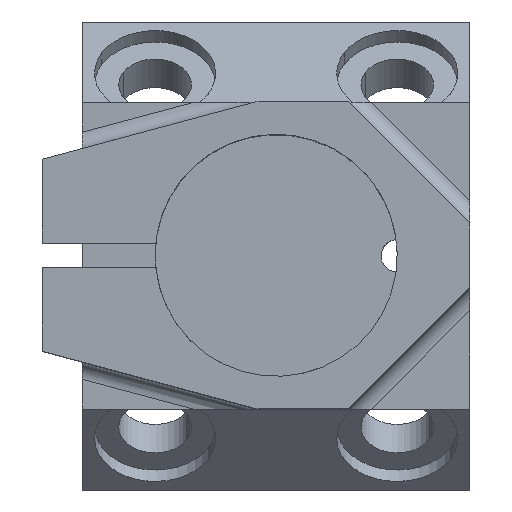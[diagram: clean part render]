
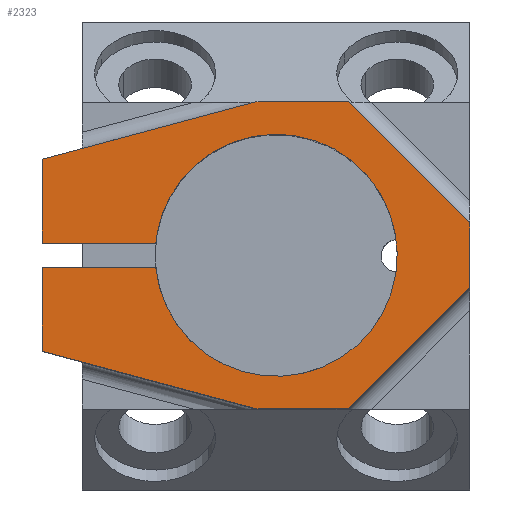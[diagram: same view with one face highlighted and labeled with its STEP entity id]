
A CAD part, top view. The second image highlights one B-rep face of the part: STEP entity #2323.
In plain terms, the highlighted planar face has unit normal (0, 0, 1).
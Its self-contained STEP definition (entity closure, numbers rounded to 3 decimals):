
#571=CARTESIAN_POINT('Vertex',(-6.,-19.,70.)) ;
#574=CARTESIAN_POINT('Line Origine',(-11.751,-19.,70.)) ;
#578=CARTESIAN_POINT('Vertex',(-17.501,-19.,70.)) ;
#928=CARTESIAN_POINT('Line Origine',(-30.751,-15.45,70.)) ;
#932=CARTESIAN_POINT('Vertex',(-44.,-11.9,70.)) ;
#1173=CARTESIAN_POINT('Vertex',(-44.,-1.5,70.)) ;
#1176=CARTESIAN_POINT('Line Origine',(-44.,-6.7,70.)) ;
#1193=CARTESIAN_POINT('Line Origine',(-36.962,-1.5,70.)) ;
#1197=CARTESIAN_POINT('Vertex',(-29.925,-1.5,70.)) ;
#1426=CARTESIAN_POINT('Vertex',(-44.,11.9,70.)) ;
#1429=CARTESIAN_POINT('Line Origine',(-30.751,15.45,70.)) ;
#1433=CARTESIAN_POINT('Vertex',(-17.501,19.,70.)) ;
#1543=CARTESIAN_POINT('Vertex',(-29.925,1.5,70.)) ;
#1546=CARTESIAN_POINT('Line Origine',(-36.962,1.5,70.)) ;
#1550=CARTESIAN_POINT('Vertex',(-44.,1.5,70.)) ;
#1583=CARTESIAN_POINT('Line Origine',(-44.,6.7,70.)) ;
#1983=CARTESIAN_POINT('Vertex',(-6.,19.,70.)) ;
#1986=CARTESIAN_POINT('Line Origine',(1.5,11.5,70.)) ;
#1990=CARTESIAN_POINT('Vertex',(9.,4.,70.)) ;
#2113=CARTESIAN_POINT('Vertex',(-28.164,7.191,70.)) ;
#2116=CARTESIAN_POINT('Axis2P3D Location',(-15.,0.,70.)) ;
#2273=CARTESIAN_POINT('Axis2P3D Location',(0.,19.,70.)) ;
#2278=CARTESIAN_POINT('Line Origine',(1.5,-11.5,70.)) ;
#2282=CARTESIAN_POINT('Vertex',(9.,-4.,70.)) ;
#2285=CARTESIAN_POINT('Line Origine',(9.,0.,70.)) ;
#2290=CARTESIAN_POINT('Line Origine',(-11.751,19.,70.)) ;
#2295=CARTESIAN_POINT('Axis2P3D Location',(-15.,0.,70.)) ;
#2299=CARTESIAN_POINT('Vertex',(-1.836,-7.191,70.)) ;
#2302=CARTESIAN_POINT('Axis2P3D Location',(-15.,0.,70.)) ;
#575=DIRECTION('Vector Direction',(1.,0.,0.)) ;
#929=DIRECTION('Vector Direction',(-0.966,0.259,0.)) ;
#1177=DIRECTION('Vector Direction',(0.,-1.,0.)) ;
#1194=DIRECTION('Vector Direction',(-1.,0.,0.)) ;
#1430=DIRECTION('Vector Direction',(-0.966,-0.259,0.)) ;
#1547=DIRECTION('Vector Direction',(1.,0.,0.)) ;
#1584=DIRECTION('Vector Direction',(0.,-1.,0.)) ;
#1987=DIRECTION('Vector Direction',(0.707,-0.707,0.)) ;
#2117=DIRECTION('Axis2P3D Direction',(0.,-0.,-1.)) ;
#2274=DIRECTION('Axis2P3D Direction',(-0.,0.,1.)) ;
#2275=DIRECTION('Axis2P3D XDirection',(0.,-1.,0.)) ;
#2279=DIRECTION('Vector Direction',(-0.707,-0.707,0.)) ;
#2286=DIRECTION('Vector Direction',(0.,-1.,0.)) ;
#2291=DIRECTION('Vector Direction',(1.,0.,0.)) ;
#2296=DIRECTION('Axis2P3D Direction',(-0.,0.,1.)) ;
#2303=DIRECTION('Axis2P3D Direction',(-0.,0.,1.)) ;
#2118=AXIS2_PLACEMENT_3D('Circle Axis2P3D',#2116,#2117,$) ;
#2276=AXIS2_PLACEMENT_3D('Plane Axis2P3D',#2273,#2274,#2275) ;
#2297=AXIS2_PLACEMENT_3D('Circle Axis2P3D',#2295,#2296,$) ;
#2304=AXIS2_PLACEMENT_3D('Circle Axis2P3D',#2302,#2303,$) ;
#2308=ORIENTED_EDGE('',*,*,#1180,.T.) ;
#2309=ORIENTED_EDGE('',*,*,#934,.F.) ;
#2310=ORIENTED_EDGE('',*,*,#580,.T.) ;
#2311=ORIENTED_EDGE('',*,*,#2284,.F.) ;
#2312=ORIENTED_EDGE('',*,*,#2289,.F.) ;
#2313=ORIENTED_EDGE('',*,*,#1992,.F.) ;
#2314=ORIENTED_EDGE('',*,*,#2294,.F.) ;
#2315=ORIENTED_EDGE('',*,*,#1435,.T.) ;
#2316=ORIENTED_EDGE('',*,*,#1587,.T.) ;
#2317=ORIENTED_EDGE('',*,*,#1552,.F.) ;
#2318=ORIENTED_EDGE('',*,*,#2120,.F.) ;
#2319=ORIENTED_EDGE('',*,*,#2301,.F.) ;
#2320=ORIENTED_EDGE('',*,*,#2306,.F.) ;
#2321=ORIENTED_EDGE('',*,*,#1199,.F.) ;
#576=VECTOR('Line Direction',#575,1.) ;
#930=VECTOR('Line Direction',#929,1.) ;
#1178=VECTOR('Line Direction',#1177,1.) ;
#1195=VECTOR('Line Direction',#1194,1.) ;
#1431=VECTOR('Line Direction',#1430,1.) ;
#1548=VECTOR('Line Direction',#1547,1.) ;
#1585=VECTOR('Line Direction',#1584,1.) ;
#1988=VECTOR('Line Direction',#1987,1.) ;
#2280=VECTOR('Line Direction',#2279,1.) ;
#2287=VECTOR('Line Direction',#2286,1.) ;
#2292=VECTOR('Line Direction',#2291,1.) ;
#2323=ADVANCED_FACE('\X2\96F64EF651E04F554F53\X0\',(#2322),#2277,.T.) ;
#2119=CIRCLE('generated circle',#2118,15.) ;
#2298=CIRCLE('generated circle',#2297,15.) ;
#2305=CIRCLE('generated circle',#2304,15.) ;
#580=EDGE_CURVE('',#579,#572,#577,.T.) ;
#934=EDGE_CURVE('',#579,#933,#931,.T.) ;
#1180=EDGE_CURVE('',#1174,#933,#1179,.T.) ;
#1199=EDGE_CURVE('',#1174,#1198,#1196,.F.) ;
#1435=EDGE_CURVE('',#1434,#1427,#1432,.T.) ;
#1552=EDGE_CURVE('',#1544,#1551,#1549,.F.) ;
#1587=EDGE_CURVE('',#1427,#1551,#1586,.T.) ;
#1992=EDGE_CURVE('',#1984,#1991,#1989,.T.) ;
#2120=EDGE_CURVE('',#2114,#1544,#2119,.F.) ;
#2284=EDGE_CURVE('',#2283,#572,#2281,.T.) ;
#2289=EDGE_CURVE('',#1991,#2283,#2288,.T.) ;
#2294=EDGE_CURVE('',#1434,#1984,#2293,.T.) ;
#2301=EDGE_CURVE('',#2300,#2114,#2298,.T.) ;
#2306=EDGE_CURVE('',#1198,#2300,#2305,.T.) ;
#2307=EDGE_LOOP('',(#2308,#2309,#2310,#2311,#2312,#2313,#2314,#2315,#2316,#2317,#2318,#2319,#2320,#2321)) ;
#2322=FACE_OUTER_BOUND('',#2307,.T.) ;
#577=LINE('Line',#574,#576) ;
#931=LINE('Line',#928,#930) ;
#1179=LINE('Line',#1176,#1178) ;
#1196=LINE('Line',#1193,#1195) ;
#1432=LINE('Line',#1429,#1431) ;
#1549=LINE('Line',#1546,#1548) ;
#1586=LINE('Line',#1583,#1585) ;
#1989=LINE('Line',#1986,#1988) ;
#2281=LINE('Line',#2278,#2280) ;
#2288=LINE('Line',#2285,#2287) ;
#2293=LINE('Line',#2290,#2292) ;
#2277=PLANE('',#2276) ;
#572=VERTEX_POINT('',#571) ;
#579=VERTEX_POINT('',#578) ;
#933=VERTEX_POINT('',#932) ;
#1174=VERTEX_POINT('',#1173) ;
#1198=VERTEX_POINT('',#1197) ;
#1427=VERTEX_POINT('',#1426) ;
#1434=VERTEX_POINT('',#1433) ;
#1544=VERTEX_POINT('',#1543) ;
#1551=VERTEX_POINT('',#1550) ;
#1984=VERTEX_POINT('',#1983) ;
#1991=VERTEX_POINT('',#1990) ;
#2114=VERTEX_POINT('',#2113) ;
#2283=VERTEX_POINT('',#2282) ;
#2300=VERTEX_POINT('',#2299) ;
